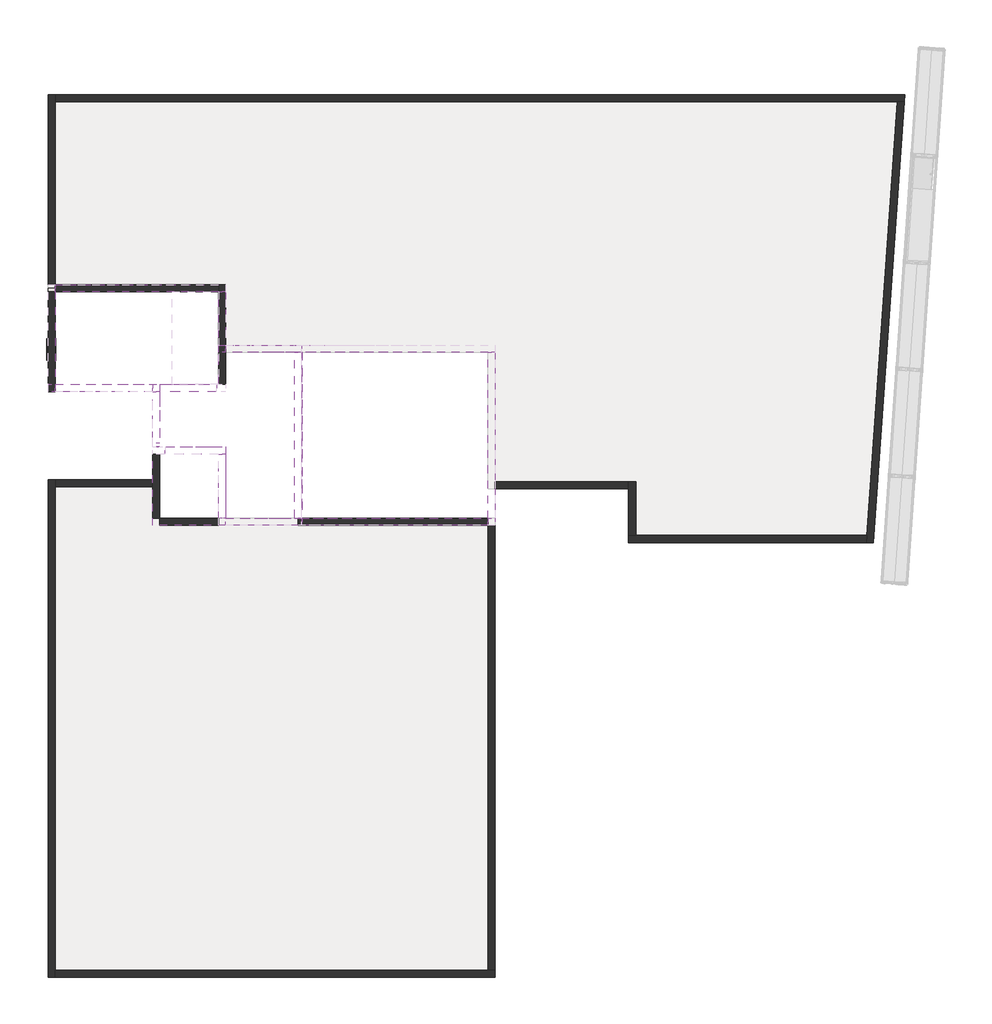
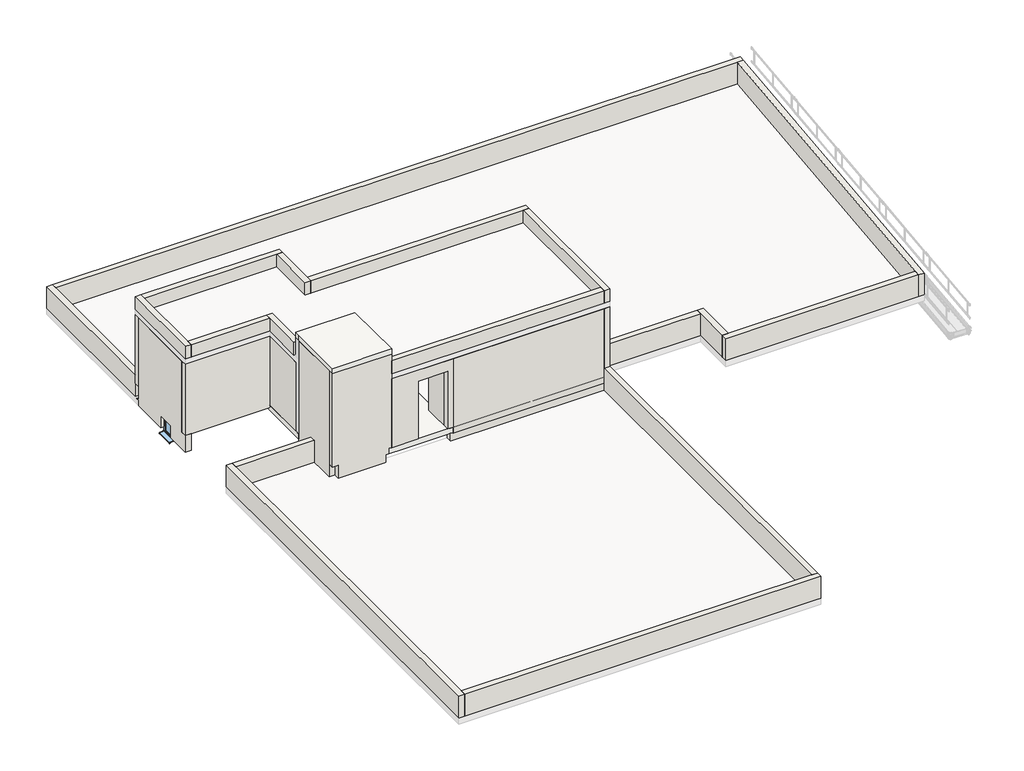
# One storey, part 1 of 2: 33 walls, 2 slabs, 1 window.
"""IFC4 building model written with IfcOpenShell, lengths in millimetres."""

from ifc_helpers import new_model, si_unit, frame, origin, place, context, project, spatial, polyline, outline, extrude, faceted_brep, transform, mapped, element, save
from components import tunnel_1v_voile_60x60_76355a19

model = new_model("IFC4")

# Units and contexts
model_context = context("Model", 3, world=origin())
ifc_project = project(units=[si_unit("LENGTHUNIT", "METRE", prefix="MILLI")], contexts=[model_context])

# Site, building, storey
site = spatial("IfcSite", under=ifc_project)
building = spatial("IfcBuilding", under=site)
storey = spatial("IfcBuildingStorey", under=building, Name="08-Plateau 8", Elevation=14400.0)

# Slabs
placement = place(None, origin())
element("IfcSlab", 1, ObjectType="Plancher Coulé en place 20 cm", at=placement, inside=storey, context=model_context, shape_type="Brep", body=[
    faceted_brep([(-1327.0447796, 7029.8622276, 15650.0), (-1327.0447796, 8929.8622276, 15650.0), (-2817.0447796, 8929.8622276, 15650.0), (-3177.0447796, 8929.8622276, 15650.0), (-3177.0447796, 9129.8622276, 15650.0), (-3177.0447796, 9329.8622276, 15650.0), (-3177.0447796, 10679.8622276, 15650.0), (-3177.0447796, 10879.8622276, 15650.0), (-2977.0447796, 10879.8622276, 15650.0), (-1377.0447796, 10879.8622276, 15650.0), (-1327.0447796, 10879.8622276, 15650.0), (-1327.0447796, 11979.8622276, 15650.0), (1008.9552204, 11979.8622276, 15650.0), (1008.9552204, 11979.5762916, 15650.0), (1008.9552204, 11779.5762916, 15650.0), (1008.9552204, 11417.4340998, 15650.0), (1008.9552204, 11167.4270678, 15650.0), (1008.9552204, 8477.4340998, 15650.0), (1008.9552204, 8227.4340998, 15650.0), (1008.9552204, 7129.8622276, 15650.0), (1008.9552204, 6929.8622276, 15650.0), (912.9552204, 6929.8622276, 15650.0), (812.9552204, 6929.8622276, 15650.0), (-687.0447796, 6929.8622276, 15650.0), (-1327.0447796, 6929.8622276, 15650.0), (-1327.0447796, 7029.8622276, 15850.0), (-1327.0447796, 6929.8622276, 15850.0), (812.9552204, 6929.8622276, 15850.0), (912.9552204, 6929.8622276, 15850.0), (1008.9552204, 6929.8622276, 15850.0), (1008.9552204, 11979.8622276, 15850.0), (-1327.0447796, 11979.8622276, 15850.0), (-1327.0447796, 10879.8622276, 15850.0), (-1377.0447796, 10879.8622276, 15850.0), (-3177.0447796, 10879.8622276, 15850.0), (-3177.0447796, 9129.8622276, 15850.0), (-3177.0447796, 8929.8622276, 15850.0), (-2817.0447796, 8929.8622276, 15850.0), (-1327.0447796, 8929.8622276, 15850.0)], [[[0, 1, 2, 3, 4, 5, 6, 7, 8, 9, 10, 11, 12, 13, 14, 15, 16, 17, 18, 19, 20, 21, 22, 23, 24]], [[25, 26, 27, 28, 29, 30, 31, 32, 33, 34, 35, 36, 37, 38]], [[1, 0, 25, 38]], [[3, 2, 1, 38, 37, 36]], [[7, 6, 5, 4, 3, 36, 35, 34]], [[10, 9, 8, 7, 34, 33, 32]], [[11, 10, 32, 31]], [[12, 11, 31, 30]], [[20, 19, 18, 17, 16, 15, 14, 13, 12, 30, 29]], [[24, 23, 22, 21, 20, 29, 28, 27, 26]], [[0, 24, 26, 25]]]),
])
element("IfcSlab", 2, ObjectType="Plancher Coulé en place 20 cm", at=placement, inside=storey, context=model_context, shape_type="SweptSolid", body=[
    extrude(outline(polyline([(-3177.0447796, 6929.8622276), (-3177.0447796, 8929.8622276), (-3177.0447796, 9129.8622276), (-2817.0447796, 9129.8622276), (-1127.0447796, 9129.8622276), (-1127.0447796, 6929.8622276), (-3177.0447796, 6929.8622276)])), frame((0.0, 0.0, 19260.0), z_axis=(0.0, 0.0, 1.0), x_axis=(1.0, 0.0, 0.0)), (0.0, 0.0, 1.0), 200.0),
])

# Walls
element("IfcWall", 3, ObjectType="Voile Banché 20 cm", at=placement, inside=storey, context=model_context, shape_type="Brep", body=[
    faceted_brep([(-5907.0447796, 13479.8622276, 15370.0), (-1327.0447796, 13479.8622276, 15370.0), (-1327.0447796, 13479.8622276, 18360.0), (-5907.0447796, 13479.8622276, 18360.0), (-6107.0447796, 13479.8622276, 18360.0), (-6107.0447796, 13479.8622276, 15850.0), (-5907.0447796, 13479.8622276, 15850.0), (-5907.0447796, 13679.8622276, 15370.0), (-5907.0447796, 13679.8622276, 15850.0), (-6107.0447796, 13679.8622276, 15850.0), (-6107.0447796, 13679.8622276, 16170.0), (-6107.0447796, 13679.8622276, 18360.0), (-1327.0447796, 13679.8622276, 18360.0), (-1327.0447796, 13679.8622276, 15370.0), (-5907.0447796, 13579.8622276, 15370.0)], [[[0, 1, 2, 3, 4, 5, 6]], [[7, 8, 9, 10, 11, 12, 13]], [[1, 0, 14, 7, 13]], [[4, 3, 2, 12, 11]], [[2, 1, 13, 12]], [[0, 6, 8, 7, 14]], [[4, 11, 10, 9, 5]], [[5, 9, 8, 6]]]),
])
element("IfcWall", 4, ObjectType="Voile Banché 20 cm", at=placement, inside=storey, context=model_context, shape_type="Brep", body=[
    faceted_brep([(-1327.0447796, 13479.8622276, 15150.0), (-1327.0447796, 10879.8622276, 15150.0), (-1327.0447796, 10879.8622276, 18360.0), (-1327.0447796, 13479.8622276, 18360.0), (-1327.0447796, 13679.8622276, 18360.0), (-1327.0447796, 13679.8622276, 15370.0), (-1327.0447796, 13479.8622276, 15370.0), (-1127.0447796, 13479.8622276, 15150.0), (-1127.0447796, 13479.8622276, 15370.0), (-1127.0447796, 13679.8622276, 15370.0), (-1127.0447796, 13679.8622276, 18360.0), (-1127.0447796, 11979.8622276, 18360.0), (-1127.0447796, 11779.8622276, 18360.0), (-1127.0447796, 10879.8622276, 18360.0), (-1127.0447796, 10879.8622276, 15850.0), (-1127.0447796, 10879.8622276, 15650.0), (-1127.0447796, 10879.8622276, 15150.0)], [[[0, 1, 2, 3, 4, 5, 6]], [[7, 8, 9, 10, 11, 12, 13, 14, 15, 16]], [[1, 0, 7, 16]], [[2, 1, 16, 15, 14, 13]], [[4, 3, 2, 13, 12, 11, 10]], [[5, 9, 8, 6]], [[0, 6, 8, 7]], [[5, 4, 10, 9]]]),
])
element("IfcWall", 5, ObjectType="Voile Banché 20 cm", at=placement, inside=storey, context=model_context, shape_type="Brep", body=[
    faceted_brep([(812.9552204, 7129.8622276, 15850.0), (812.9552204, 7129.8622276, 17960.0), (812.9552204, 7129.8622276, 18360.0), (812.9552204, 11779.8622276, 18360.0), (812.9552204, 11779.8622276, 17960.0), (812.9552204, 11779.8622276, 15850.0), (812.9552204, 9559.5762916, 15850.0), (812.9552204, 9559.5762916, 17960.0), (812.9552204, 8059.5762916, 17960.0), (812.9552204, 8059.5762916, 15850.0), (1012.9552204, 7129.8622276, 18360.0), (1012.9552204, 7129.8622276, 15850.0), (1012.9552204, 8059.5762916, 15850.0), (1012.9552204, 8059.5762916, 17960.0), (1012.9552204, 9559.5762916, 17960.0), (1012.9552204, 9559.5762916, 15850.0), (1012.9552204, 11779.8622276, 15850.0), (1012.9552204, 11779.8622276, 18360.0), (1012.9552204, 7130.1481637, 18360.0)], [[[0, 1, 2, 3, 4, 5, 6, 7, 8, 9]], [[10, 11, 12, 13, 14, 15, 16, 17, 18]], [[11, 0, 9, 12]], [[5, 16, 15, 6]], [[3, 2, 10, 18, 17]], [[7, 14, 13, 8]], [[14, 7, 6, 15]], [[8, 13, 12, 9]], [[2, 1, 0, 11, 10]], [[5, 4, 3, 17, 16]]]),
])
element("IfcWall", 6, ObjectType="Voile Banché 20 cm", at=placement, inside=storey, context=model_context, shape_type="Brep", body=[
    faceted_brep([(6432.9552204, 11779.8622276, 15850.0), (6432.9552204, 11779.8622276, 18360.0), (6232.9552204, 11779.8622276, 18360.0), (1012.9552204, 11779.8622276, 18360.0), (812.9552204, 11779.8622276, 18360.0), (-1127.0447796, 11779.8622276, 18360.0), (-1127.0447796, 11779.8622276, 15850.0), (-207.0447796, 11779.8622276, 15850.0), (-207.0447796, 11779.8622276, 17960.0), (812.9552204, 11779.8622276, 17960.0), (812.9552204, 11779.8622276, 15850.0), (1012.9552204, 11779.8622276, 15850.0), (6232.9552204, 11779.8622276, 15850.0), (6432.9552204, 11979.8622276, 18360.0), (6432.9552204, 11979.8622276, 15850.0), (812.9552204, 11979.8622276, 15850.0), (812.9552204, 11979.8622276, 17960.0), (-207.0447796, 11979.8622276, 17960.0), (-207.0447796, 11979.8622276, 15850.0), (-1127.0447796, 11979.8622276, 15850.0), (-1127.0447796, 11979.8622276, 18360.0)], [[[0, 1, 2, 3, 4, 5, 6, 7, 8, 9, 10, 11, 12]], [[13, 14, 15, 16, 17, 18, 19, 20]], [[14, 0, 12, 11, 10, 15]], [[6, 19, 18, 7]], [[5, 4, 3, 2, 1, 13, 20]], [[1, 0, 14, 13]], [[6, 5, 20, 19]], [[8, 17, 16, 9]], [[17, 8, 7, 18]], [[9, 16, 15, 10]]]),
])
element("IfcWall", 7, ObjectType="Voile Banché 20 cm", at=placement, inside=storey, context=model_context, shape_type="Brep", body=[
    faceted_brep([(6232.9552204, 11779.8622276, 15850.0), (6232.9552204, 7130.1481637, 15850.0), (6232.9552204, 6930.1481637, 15850.0), (6232.9552204, 6930.1481637, 16170.0), (6232.9552204, 6930.1481637, 18360.0), (6232.9552204, 7130.1481637, 18360.0), (6232.9552204, 11779.8622276, 18360.0), (6432.9552204, 11779.8622276, 15850.0), (6432.9552204, 11779.8622276, 18360.0), (6432.9552204, 6930.1481637, 18360.0), (6432.9552204, 6930.1481637, 16170.0), (6432.9552204, 6930.1481637, 15850.0), (6432.9552204, 7130.1481637, 15850.0)], [[[0, 1, 2, 3, 4, 5, 6]], [[7, 8, 9, 10, 11, 12]], [[2, 1, 0, 7, 12, 11]], [[6, 5, 4, 9, 8]], [[0, 6, 8, 7]], [[2, 11, 10, 9, 4, 3]]]),
])
element("IfcWall", 8, ObjectType="Voile Banché 20 cm", at=placement, inside=storey, context=model_context, shape_type="Brep", body=[
    faceted_brep([(-6107.0447796, 10679.8622276, 18360.0), (-6107.0447796, 10679.8622276, 15760.0), (-5907.0447796, 10679.8622276, 15760.0), (-1377.0447796, 10679.8622276, 15760.0), (-1377.0447796, 10679.8622276, 15850.0), (-1377.0447796, 10679.8622276, 15860.0), (-2397.0447796, 10679.8622276, 15860.0), (-2397.0447796, 10679.8622276, 17960.0), (-1377.0447796, 10679.8622276, 17960.0), (-1377.0447796, 10679.8622276, 18360.0), (-2977.0447796, 10679.8622276, 18360.0), (-3177.0447796, 10679.8622276, 18360.0), (-1377.0447796, 10879.8622276, 15760.0), (-5907.0447796, 10879.8622276, 15760.0), (-6107.0447796, 10879.8622276, 15760.0), (-6107.0447796, 10879.8622276, 15850.0), (-6107.0447796, 10879.8622276, 18360.0), (-5907.0447796, 10879.8622276, 18360.0), (-1377.0447796, 10879.8622276, 18360.0), (-1377.0447796, 10879.8622276, 17960.0), (-2397.0447796, 10879.8622276, 17960.0), (-2397.0447796, 10879.8622276, 15860.0), (-1377.0447796, 10879.8622276, 15860.0), (-1377.0447796, 10879.8622276, 15850.0)], [[[0, 1, 2, 3, 4, 5, 6, 7, 8, 9, 10, 11]], [[12, 13, 14, 15, 16, 17, 18, 19, 20, 21, 22, 23]], [[3, 2, 1, 14, 13, 12]], [[3, 12, 23, 22, 5, 4]], [[18, 9, 8, 19]], [[0, 11, 10, 9, 18, 17, 16]], [[0, 16, 15, 14, 1]], [[7, 20, 19, 8]], [[21, 6, 5, 22]], [[20, 7, 6, 21]]]),
])
element("IfcWall", 9, ObjectType="Voile Banché 20 cm", at=placement, inside=storey, context=model_context, shape_type="Brep", body=[
    faceted_brep([(-6107.0447796, 10879.8622276, 18360.0), (-6107.0447796, 13479.8622276, 18360.0), (-6107.0447796, 13479.8622276, 15850.0), (-6107.0447796, 13479.8622276, 15370.0), (-6107.0447796, 13579.8622276, 15370.0), (-6107.0447796, 13579.8622276, 15350.0), (-6107.0447796, 13479.8622276, 15350.0), (-6107.0447796, 13479.8622276, 15150.0), (-6107.0447796, 12154.8622276, 15150.0), (-6107.0447796, 12154.8622276, 15580.0), (-6107.0447796, 11554.8622276, 15580.0), (-6107.0447796, 11554.8622276, 15150.0), (-6107.0447796, 10879.8622276, 15150.0), (-6107.0447796, 10679.8622276, 15150.0), (-6107.0447796, 10679.8622276, 15760.0), (-6107.0447796, 10879.8622276, 15760.0), (-5907.0447796, 13479.8622276, 18360.0), (-5907.0447796, 10879.8622276, 18360.0), (-5907.0447796, 10879.8622276, 15850.0), (-5907.0447796, 10879.8622276, 15760.0), (-5907.0447796, 10679.8622276, 15760.0), (-5907.0447796, 10679.8622276, 15150.0), (-5907.0447796, 10879.8622276, 15150.0), (-5907.0447796, 11554.8622276, 15150.0), (-5907.0447796, 11554.8622276, 15580.0), (-5907.0447796, 12154.8622276, 15580.0), (-5907.0447796, 12154.8622276, 15150.0), (-5907.0447796, 13479.8622276, 15150.0), (-5907.0447796, 13479.8622276, 15350.0), (-5907.0447796, 13579.8622276, 15350.0), (-5907.0447796, 13579.8622276, 15370.0), (-5907.0447796, 13479.8622276, 15370.0), (-5907.0447796, 13479.8622276, 15850.0)], [[[0, 1, 2, 3, 4, 5, 6, 7, 8, 9, 10, 11, 12, 13, 14, 15]], [[16, 17, 18, 19, 20, 21, 22, 23, 24, 25, 26, 27, 28, 29, 30, 31, 32]], [[7, 27, 26, 8]], [[21, 13, 12, 11, 23, 22]], [[1, 0, 17, 16]], [[7, 6, 28, 27]], [[13, 21, 20, 14]], [[17, 0, 15, 19, 18]], [[5, 4, 30, 29]], [[25, 9, 8, 26]], [[9, 25, 24, 10]], [[10, 24, 23, 11]], [[15, 14, 20, 19]], [[5, 29, 28, 6]], [[31, 30, 4, 3]], [[1, 16, 32, 31, 3, 2]]]),
])
element("IfcWall", 10, ObjectType="Voile Banché 20 cm", at=placement, inside=storey, context=model_context, shape_type="SweptSolid", body=[
    extrude(outline(polyline([(-3177.0447796, 9129.8622276), (-3177.0447796, 10679.8622276), (-2977.0447796, 10679.8622276), (-2977.0447796, 9129.8622276), (-3177.0447796, 9129.8622276)])), frame((0.0, 0.0, 15850.0), z_axis=(0.0, 0.0, 1.0), x_axis=(1.0, 0.0, 0.0)), (0.0, 0.0, 1.0), 2510.0),
])
element("IfcWall", 11, ObjectType="Voile Banché 20 cm", at=placement, inside=storey, context=model_context, shape_type="Brep", body=[
    faceted_brep([(-3177.0447796, 8929.8622276, 15370.0), (-3177.0447796, 8209.8622276, 15370.0), (-3177.0447796, 8009.8622276, 15370.0), (-3177.0447796, 7129.8622276, 15370.0), (-3177.0447796, 7129.8622276, 15850.0), (-3177.0447796, 7129.8622276, 19260.0), (-3177.0447796, 8929.8622276, 19260.0), (-3177.0447796, 8929.8622276, 18560.0), (-3177.0447796, 8929.8622276, 18360.0), (-3177.0447796, 8929.8622276, 15850.0), (-3177.0447796, 8929.8622276, 15650.0), (-2977.0447796, 8929.8622276, 15370.0), (-2977.0447796, 8929.8622276, 19260.0), (-2977.0447796, 7129.8622276, 19260.0), (-2977.0447796, 7129.8622276, 15370.0)], [[[0, 1, 2, 3, 4, 5, 6, 7, 8, 9, 10]], [[11, 12, 13, 14]], [[3, 2, 1, 0, 11, 14]], [[0, 10, 9, 8, 7, 6, 12, 11]], [[6, 5, 13, 12]], [[3, 14, 13, 5, 4]]]),
])
element("IfcWall", 12, ObjectType="Voile Banché 20 cm", at=placement, inside=storey, context=model_context, shape_type="Brep", body=[
    faceted_brep([(-1327.0447796, 7129.8622276, 15370.0), (-2977.0447796, 7129.8622276, 15370.0), (-2977.0447796, 7129.8622276, 15850.0), (-3177.0447796, 7129.8622276, 15850.0), (-3177.0447796, 7129.8622276, 19260.0), (-2977.0447796, 7129.8622276, 19260.0), (-1327.0447796, 7129.8622276, 19260.0), (-1127.0447796, 7129.8622276, 19260.0), (-1127.0447796, 7129.8622276, 19020.0), (-1127.0447796, 7129.8622276, 18560.0), (-1127.0447796, 7129.8622276, 18360.0), (-1127.0447796, 7129.8622276, 15850.0), (-1227.0447796, 7129.8622276, 15850.0), (-1227.0447796, 7129.8622276, 15650.0), (-1327.0447796, 7129.8622276, 15650.0), (-1327.0447796, 6929.8622276, 15370.0), (-1327.0447796, 6929.8622276, 15650.0), (-1227.0447796, 6929.8622276, 15650.0), (-1227.0447796, 6929.8622276, 15850.0), (-1127.0447796, 6929.8622276, 15850.0), (-1127.0447796, 6929.8622276, 18360.0), (-1127.0447796, 6929.8622276, 18560.0), (-1127.0447796, 6929.8622276, 19020.0), (-1127.0447796, 6929.8622276, 19260.0), (-3177.0447796, 6929.8622276, 19260.0), (-3177.0447796, 6929.8622276, 15850.0), (-2977.0447796, 6929.8622276, 15850.0), (-2977.0447796, 6929.8622276, 15370.0)], [[[0, 1, 2, 3, 4, 5, 6, 7, 8, 9, 10, 11, 12, 13, 14]], [[15, 16, 17, 18, 19, 20, 21, 22, 23, 24, 25, 26, 27]], [[1, 0, 15, 27]], [[25, 3, 2, 26]], [[2, 1, 27, 26]], [[4, 3, 25, 24]], [[13, 17, 16, 14]], [[13, 12, 18, 17]], [[11, 19, 18, 12]], [[0, 14, 16, 15]], [[7, 6, 5, 4, 24, 23]], [[7, 23, 22, 21, 20, 19, 11, 10, 9, 8]]]),
])
element("IfcWall", 13, ObjectType="Voile Banché 20 cm", at=placement, inside=storey, context=model_context, shape_type="Brep", body=[
    faceted_brep([(-1127.0447796, 9129.8622276, 15850.0), (-1327.0447796, 9129.8622276, 15850.0), (-2817.0447796, 9129.8622276, 15850.0), (-2817.0447796, 9129.8622276, 15860.0), (-1797.0447796, 9129.8622276, 15860.0), (-1797.0447796, 9129.8622276, 17960.0), (-2817.0447796, 9129.8622276, 17960.0), (-2817.0447796, 9129.8622276, 19260.0), (-1127.0447796, 9129.8622276, 19260.0), (-1127.0447796, 9129.8622276, 15860.0), (-2817.0447796, 8929.8622276, 15850.0), (-1327.0447796, 8929.8622276, 15850.0), (-1127.0447796, 8929.8622276, 15850.0), (-1127.0447796, 8929.8622276, 19260.0), (-1327.0447796, 8929.8622276, 19260.0), (-2817.0447796, 8929.8622276, 19260.0), (-2817.0447796, 8929.8622276, 17960.0), (-1797.0447796, 8929.8622276, 17960.0), (-1797.0447796, 8929.8622276, 15860.0), (-2817.0447796, 8929.8622276, 15860.0)], [[[0, 1, 2, 3, 4, 5, 6, 7, 8, 9]], [[10, 11, 12, 13, 14, 15, 16, 17, 18, 19]], [[2, 1, 0, 12, 11, 10]], [[2, 10, 19, 3]], [[15, 7, 6, 16]], [[0, 9, 8, 13, 12]], [[5, 17, 16, 6]], [[18, 4, 3, 19]], [[17, 5, 4, 18]], [[8, 7, 15, 14, 13]]]),
])
element("IfcWall", 14, ObjectType="Voile Banché 20 cm", at=placement, inside=storey, context=model_context, shape_type="Brep", body=[
    faceted_brep([(-1327.0447796, 8929.8622276, 15850.0), (-1327.0447796, 7129.8622276, 15850.0), (-1327.0447796, 7129.8622276, 19260.0), (-1327.0447796, 8929.8622276, 19260.0), (-1127.0447796, 8929.8622276, 15850.0), (-1127.0447796, 8929.8622276, 19260.0), (-1127.0447796, 7129.8622276, 19260.0), (-1127.0447796, 7129.8622276, 15850.0), (-1227.0447796, 7129.8622276, 15850.0)], [[[0, 1, 2, 3]], [[4, 5, 6, 7]], [[1, 0, 4, 7, 8]], [[0, 3, 5, 4]], [[3, 2, 6, 5]], [[1, 8, 7, 6, 2]]]),
])
element("IfcWall", 15, ObjectType="Voile Banché 20 cm", at=placement, inside=storey, context=model_context, shape_type="Brep", body=[
    faceted_brep([(-1127.0447796, 7129.8622276, 15850.0), (-1127.0447796, 7129.8622276, 18360.0), (812.9552204, 7129.8622276, 18360.0), (1012.9552204, 7129.8622276, 18360.0), (1012.9552204, 7129.8622276, 15850.0), (812.9552204, 7129.8622276, 15850.0), (812.9552204, 7129.8622276, 17960.0), (-207.0447796, 7129.8622276, 17960.0), (-207.0447796, 7129.8622276, 15850.0), (-1127.0447796, 6929.8622276, 18360.0), (-1127.0447796, 6929.8622276, 15850.0), (-207.0447796, 6929.8622276, 15850.0), (-207.0447796, 6929.8622276, 17960.0), (812.9552204, 6929.8622276, 17960.0), (812.9552204, 6929.8622276, 15850.0), (1012.9552204, 6929.8622276, 15850.0), (1012.9552204, 6929.8622276, 18360.0), (1012.9552204, 6930.1481637, 18360.0)], [[[0, 1, 2, 3, 4, 5, 6, 7, 8]], [[9, 10, 11, 12, 13, 14, 15, 16]], [[10, 0, 8, 11]], [[4, 15, 14, 5]], [[3, 2, 1, 9, 16, 17]], [[1, 0, 10, 9]], [[6, 13, 12, 7]], [[13, 6, 5, 14]], [[7, 12, 11, 8]], [[4, 3, 17, 16, 15]]]),
])
element("IfcWall", 16, ObjectType="Acrotère BA 20 cm", at=placement, inside=storey, context=model_context, shape_type="Brep", body=[
    faceted_brep([(-6107.0447796, 8209.8622276, 15370.0), (-6107.0447796, -5740.1377724, 15370.0), (-6107.0447796, -5740.1377724, 16170.0), (-6107.0447796, 8209.8622276, 16170.0), (-5907.0447796, 8209.8622276, 15370.0), (-5907.0447796, 8209.8622276, 16170.0), (-5907.0447796, 8009.8622276, 16170.0), (-5907.0447796, -5540.1377724, 16170.0), (-5907.0447796, -5740.1377724, 16170.0), (-5907.0447796, -5740.1377724, 15370.0), (-5907.0447796, -5540.1377724, 15370.0), (-5907.0447796, 8009.8622276, 15370.0)], [[[0, 1, 2, 3]], [[4, 5, 6, 7, 8, 9, 10, 11]], [[1, 0, 4, 11, 10, 9]], [[3, 2, 8, 7, 6, 5]], [[2, 1, 9, 8]], [[0, 3, 5, 4]]]),
])
element("IfcWall", 17, ObjectType="Acrotère BA 20 cm", at=placement, inside=storey, context=model_context, shape_type="Brep", body=[
    faceted_brep([(-5907.0447796, -5740.1377724, 15370.0), (6432.9552204, -5740.1377724, 15370.0), (6432.9552204, -5740.1377724, 16170.0), (-5907.0447796, -5740.1377724, 16170.0), (-5907.0447796, -5540.1377724, 15370.0), (-5907.0447796, -5540.1377724, 16170.0), (6232.9552204, -5540.1377724, 16170.0), (6432.9552204, -5540.1377724, 16170.0), (6432.9552204, -5540.1377724, 15370.0), (6232.9552204, -5540.1377724, 15370.0)], [[[0, 1, 2, 3]], [[4, 5, 6, 7, 8, 9]], [[1, 0, 4, 9, 8]], [[3, 2, 7, 6, 5]], [[0, 3, 5, 4]], [[2, 1, 8, 7]]]),
])
element("IfcWall", 18, ObjectType="Acrotère BA 20 cm", at=placement, inside=storey, context=model_context, shape_type="Brep", body=[
    faceted_brep([(6432.9552204, -5540.1377724, 15370.0), (6432.9552204, 6779.8622276, 15370.0), (6432.9552204, 6929.8622276, 15370.0), (6432.9552204, 6929.8622276, 15620.0), (6432.9552204, 6929.8622276, 15650.0), (6432.9552204, 6930.1481637, 15650.0), (6432.9552204, 6930.1481637, 15850.0), (6432.9552204, 6930.1481637, 16170.0), (6432.9552204, -5540.1377724, 16170.0), (6232.9552204, -5540.1377724, 15370.0), (6232.9552204, -5540.1377724, 16170.0), (6232.9552204, 6930.1481637, 16170.0), (6232.9552204, 6930.1481637, 15850.0), (6232.9552204, 6930.1481637, 15650.0), (6232.9552204, 6929.8622276, 15650.0), (6232.9552204, 6929.8622276, 15620.0), (6232.9552204, 6929.8622276, 15370.0), (6232.9552204, 6779.8622276, 15370.0)], [[[0, 1, 2, 3, 4, 5, 6, 7, 8]], [[9, 10, 11, 12, 13, 14, 15, 16, 17]], [[2, 1, 0, 9, 17, 16]], [[8, 7, 11, 10]], [[0, 8, 10, 9]], [[13, 5, 4, 14]], [[2, 16, 15, 14, 4, 3]], [[7, 6, 5, 13, 12, 11]]]),
])
element("IfcWall", 19, ObjectType="Acrotère BA 20 cm", at=placement, inside=storey, context=model_context, shape_type="SweptSolid", body=[
    extrude(outline(polyline([(-5907.0447796, 8209.8622276), (-3177.0447796, 8209.8622276), (-3177.0447796, 8009.8622276), (-5907.0447796, 8009.8622276), (-5907.0447796, 8209.8622276)])), frame((0.0, 0.0, 15370.0), z_axis=(0.0, 0.0, 1.0), x_axis=(1.0, 0.0, 0.0)), (0.0, 0.0, 1.0), 800.0),
])
element("IfcWall", 20, ObjectType="Acrotère BA 20 cm", at=placement, inside=storey, context=model_context, shape_type="Brep", body=[
    faceted_brep([(-5907.0447796, 13679.8622276, 15370.0), (-5907.0447796, 18799.8622276, 15370.0), (-5907.0447796, 18999.8622276, 15370.0), (-5907.0447796, 18999.8622276, 16170.0), (-5907.0447796, 18799.8622276, 16170.0), (-5907.0447796, 13679.8622276, 16170.0), (-5907.0447796, 13679.8622276, 15850.0), (-6107.0447796, 13679.8622276, 15370.0), (-6107.0447796, 13679.8622276, 15850.0), (-6107.0447796, 13679.8622276, 16170.0), (-6107.0447796, 18999.8622276, 16170.0), (-6107.0447796, 18999.8622276, 15370.0)], [[[0, 1, 2, 3, 4, 5, 6]], [[7, 8, 9, 10, 11]], [[2, 1, 0, 7, 11]], [[5, 4, 3, 10, 9]], [[0, 6, 5, 9, 8, 7]], [[3, 2, 11, 10]]]),
])
element("IfcWall", 21, ObjectType="Acrotère BA 20 cm", at=placement, inside=storey, context=model_context, shape_type="Brep", body=[
    faceted_brep([(-5907.0447796, 18799.8622276, 15370.0), (17705.3277835, 18799.8622276, 15370.0), (17905.8161631, 18799.8622276, 15370.0), (17905.8161631, 18799.8622276, 16170.0), (17705.3277835, 18799.8622276, 16170.0), (-5907.0447796, 18799.8622276, 16170.0), (-5907.0447796, 18999.8622276, 15370.0), (-5907.0447796, 18999.8622276, 16170.0), (17919.8015255, 18999.8622276, 16170.0), (17919.8015255, 18999.8622276, 15370.0)], [[[0, 1, 2, 3, 4, 5]], [[6, 7, 8, 9]], [[2, 1, 0, 6, 9]], [[5, 4, 3, 8, 7]], [[0, 5, 7, 6]], [[3, 2, 9, 8]]]),
])
element("IfcWall", 22, ObjectType="Acrotère BA 20 cm", at=placement, inside=storey, context=model_context, shape_type="Brep", body=[
    faceted_brep([(17705.3277835, 18799.8622276, 15370.0), (16855.7620686, 6650.5064754, 15370.0), (16841.7767062, 6450.5064754, 15370.0), (16841.7767062, 6450.5064754, 16170.0), (16855.7620686, 6650.5064754, 16170.0), (17705.3277835, 18799.8622276, 16170.0), (17905.8161631, 18799.8622276, 15370.0), (17905.8161631, 18799.8622276, 16170.0), (17042.2650858, 6450.5064754, 16170.0), (17042.2650858, 6450.5064754, 15370.0)], [[[0, 1, 2, 3, 4, 5]], [[6, 7, 8, 9]], [[2, 1, 0, 6, 9]], [[5, 4, 3, 8, 7]], [[0, 5, 7, 6]], [[3, 2, 9, 8]]]),
])
element("IfcWall", 23, ObjectType="Acrotère BA 20 cm", at=placement, inside=storey, context=model_context, shape_type="Brep", body=[
    faceted_brep([(16855.7620686, 6650.5064754, 15370.0), (10373.5257924, 6650.5064754, 15370.0), (10173.5257924, 6650.5064754, 15370.0), (10173.5257924, 6650.5064754, 16170.0), (10373.5257924, 6650.5064754, 16170.0), (16855.7620686, 6650.5064754, 16170.0), (16841.7767062, 6450.5064754, 15370.0), (16841.7767062, 6450.5064754, 16170.0), (10173.5257924, 6450.5064754, 16170.0), (10173.5257924, 6450.5064754, 15370.0)], [[[0, 1, 2, 3, 4, 5]], [[6, 7, 8, 9]], [[2, 1, 0, 6, 9]], [[5, 4, 3, 8, 7]], [[0, 5, 7, 6]], [[3, 2, 9, 8]]]),
])
element("IfcWall", 24, ObjectType="Acrotère BA 20 cm", at=placement, inside=storey, context=model_context, shape_type="Brep", body=[
    faceted_brep([(10373.5257924, 6650.5064754, 15370.0), (10373.5257924, 8159.8622276, 15370.0), (10373.5257924, 8159.8622276, 16170.0), (10373.5257924, 6650.5064754, 16170.0), (10173.5257924, 6650.5064754, 15370.0), (10173.5257924, 6650.5064754, 16170.0), (10173.5257924, 7959.8622276, 16170.0), (10173.5257924, 8159.8622276, 16170.0), (10173.5257924, 8159.8622276, 15370.0), (10173.5257924, 7959.8622276, 15370.0)], [[[0, 1, 2, 3]], [[4, 5, 6, 7, 8, 9]], [[1, 0, 4, 9, 8]], [[3, 2, 7, 6, 5]], [[0, 3, 5, 4]], [[2, 1, 8, 7]]]),
])
element("IfcWall", 25, ObjectType="Acrotère BA 20 cm", at=placement, inside=storey, context=model_context, shape_type="SweptSolid", body=[
    extrude(outline(polyline([(6432.9552204, 8159.8622276), (10173.5257924, 8159.8622276), (10173.5257924, 7959.8622276), (6432.9552204, 7959.8622276), (6432.9552204, 8159.8622276)])), frame((0.0, 0.0, 15370.0), z_axis=(0.0, 0.0, 1.0), x_axis=(1.0, 0.0, 0.0)), (0.0, 0.0, 1.0), 800.0),
])
element("IfcWall", 26, ObjectType="Acrotère BA 20 cm", at=placement, inside=storey, context=model_context, shape_type="Brep", body=[
    faceted_brep([(-5907.0447796, 10679.8622276, 18560.0), (-5907.0447796, 10879.8622276, 18560.0), (-5907.0447796, 13479.8622276, 18560.0), (-5907.0447796, 13679.8622276, 18560.0), (-5907.0447796, 13679.8622276, 19020.0), (-5907.0447796, 13479.8622276, 19020.0), (-5907.0447796, 10879.8622276, 19020.0), (-5907.0447796, 10679.8622276, 19020.0), (-6107.0447796, 10679.8622276, 18560.0), (-6107.0447796, 10679.8622276, 19020.0), (-6107.0447796, 13679.8622276, 19020.0), (-6107.0447796, 13679.8622276, 18560.0)], [[[0, 1, 2, 3, 4, 5, 6, 7]], [[8, 9, 10, 11]], [[3, 2, 1, 0, 8, 11]], [[7, 6, 5, 4, 10, 9]], [[4, 3, 11, 10]], [[0, 7, 9, 8]]]),
])
element("IfcWall", 27, ObjectType="Acrotère BA 20 cm", at=placement, inside=storey, context=model_context, shape_type="Brep", body=[
    faceted_brep([(-5907.0447796, 13479.8622276, 18560.0), (-1327.0447796, 13479.8622276, 18560.0), (-1127.0447796, 13479.8622276, 18560.0), (-1127.0447796, 13479.8622276, 19020.0), (-1327.0447796, 13479.8622276, 19020.0), (-5907.0447796, 13479.8622276, 19020.0), (-5907.0447796, 13679.8622276, 18560.0), (-5907.0447796, 13679.8622276, 19020.0), (-1127.0447796, 13679.8622276, 19020.0), (-1127.0447796, 13679.8622276, 18560.0)], [[[0, 1, 2, 3, 4, 5]], [[6, 7, 8, 9]], [[2, 1, 0, 6, 9]], [[5, 4, 3, 8, 7]], [[0, 5, 7, 6]], [[3, 2, 9, 8]]]),
])
element("IfcWall", 28, ObjectType="Acrotère BA 20 cm", at=placement, inside=storey, context=model_context, shape_type="Brep", body=[
    faceted_brep([(-1327.0447796, 13479.8622276, 18560.0), (-1327.0447796, 11779.8622276, 18560.0), (-1327.0447796, 11779.8622276, 19020.0), (-1327.0447796, 13479.8622276, 19020.0), (-1127.0447796, 13479.8622276, 18560.0), (-1127.0447796, 13479.8622276, 19020.0), (-1127.0447796, 11979.8622276, 19020.0), (-1127.0447796, 11779.8622276, 19020.0), (-1127.0447796, 11779.8622276, 18560.0), (-1127.0447796, 11979.8622276, 18560.0)], [[[0, 1, 2, 3]], [[4, 5, 6, 7, 8, 9]], [[1, 0, 4, 9, 8]], [[3, 2, 7, 6, 5]], [[0, 3, 5, 4]], [[2, 1, 8, 7]]]),
])
element("IfcWall", 29, ObjectType="Acrotère BA 20 cm", at=placement, inside=storey, context=model_context, shape_type="Brep", body=[
    faceted_brep([(-1127.0447796, 11779.8622276, 18560.0), (6232.9552204, 11779.8622276, 18560.0), (6432.9552204, 11779.8622276, 18560.0), (6432.9552204, 11779.8622276, 19020.0), (6232.9552204, 11779.8622276, 19020.0), (-1127.0447796, 11779.8622276, 19020.0), (-1127.0447796, 11979.8622276, 18560.0), (-1127.0447796, 11979.8622276, 19020.0), (6432.9552204, 11979.8622276, 19020.0), (6432.9552204, 11979.8622276, 18560.0)], [[[0, 1, 2, 3, 4, 5]], [[6, 7, 8, 9]], [[2, 1, 0, 6, 9]], [[5, 4, 3, 8, 7]], [[0, 5, 7, 6]], [[3, 2, 9, 8]]]),
])
element("IfcWall", 30, ObjectType="Acrotère BA 20 cm", at=placement, inside=storey, context=model_context, shape_type="Brep", body=[
    faceted_brep([(6232.9552204, 11779.8622276, 18560.0), (6232.9552204, 7129.8622276, 18560.0), (6232.9552204, 6929.8622276, 18560.0), (6232.9552204, 6929.8622276, 19020.0), (6232.9552204, 7129.8622276, 19020.0), (6232.9552204, 11779.8622276, 19020.0), (6432.9552204, 11779.8622276, 18560.0), (6432.9552204, 11779.8622276, 19020.0), (6432.9552204, 6929.8622276, 19020.0), (6432.9552204, 6929.8622276, 18560.0)], [[[0, 1, 2, 3, 4, 5]], [[6, 7, 8, 9]], [[2, 1, 0, 6, 9]], [[5, 4, 3, 8, 7]], [[0, 5, 7, 6]], [[3, 2, 9, 8]]]),
])
element("IfcWall", 31, ObjectType="Acrotère BA 20 cm", at=placement, inside=storey, context=model_context, shape_type="SweptSolid", body=[
    extrude(outline(polyline([(-1127.0447796, 7129.8622276), (6232.9552204, 7129.8622276), (6232.9552204, 6929.8622276), (-1127.0447796, 6929.8622276), (-1127.0447796, 7129.8622276)])), frame((0.0, 0.0, 18560.0), z_axis=(0.0, 0.0, 1.0), x_axis=(1.0, 0.0, 0.0)), (0.0, 0.0, 1.0), 460.0),
])
element("IfcWall", 32, ObjectType="Acrotère BA 20 cm", at=placement, inside=storey, context=model_context, shape_type="Brep", body=[
    faceted_brep([(-2977.0447796, 9229.8622276, 18560.0), (-2977.0447796, 10879.8622276, 18560.0), (-2977.0447796, 10879.8622276, 19020.0), (-2977.0447796, 9229.8622276, 19020.0), (-3177.0447796, 9229.8622276, 18560.0), (-3177.0447796, 9229.8622276, 19020.0), (-3177.0447796, 10679.8622276, 19020.0), (-3177.0447796, 10879.8622276, 19020.0), (-3177.0447796, 10879.8622276, 18560.0), (-3177.0447796, 10679.8622276, 18560.0)], [[[0, 1, 2, 3]], [[4, 5, 6, 7, 8, 9]], [[1, 0, 4, 9, 8]], [[3, 2, 7, 6, 5]], [[0, 3, 5, 4]], [[2, 1, 8, 7]]]),
])
element("IfcWall", 33, ObjectType="Acrotère BA 20 cm", at=placement, inside=storey, context=model_context, shape_type="SweptSolid", body=[
    extrude(outline(polyline([(-5907.0447796, 10879.8622276), (-3177.0447796, 10879.8622276), (-3177.0447796, 10679.8622276), (-5907.0447796, 10679.8622276), (-5907.0447796, 10879.8622276)])), frame((0.0, 0.0, 18560.0), z_axis=(0.0, 0.0, 1.0), x_axis=(1.0, 0.0, 0.0)), (0.0, 0.0, 1.0), 460.0),
])
element("IfcWall", 34, ObjectType="Poutre voile 20cm", at=placement, inside=storey, context=model_context, shape_type="Brep", body=[
    faceted_brep([(1008.9552204, 6929.8622276, 15650.0), (912.9552204, 6929.8622276, 15650.0), (912.9552204, 6929.8622276, 15370.0), (6232.9552204, 6929.8622276, 15370.0), (6232.9552204, 6929.8622276, 15620.0), (1008.9552204, 6929.8622276, 15620.0), (912.9552204, 7129.8622276, 15650.0), (1008.9552204, 7129.8622276, 15650.0), (1008.9552204, 7129.8622276, 15620.0), (1012.9552204, 7129.8622276, 15620.0), (6232.9552204, 7129.8622276, 15620.0), (6232.9552204, 7129.8622276, 15370.0), (912.9552204, 7129.8622276, 15370.0)], [[[0, 1, 2, 3, 4, 5]], [[6, 7, 8, 9, 10, 11, 12]], [[1, 6, 12, 2]], [[3, 2, 12, 11]], [[1, 0, 7, 6]], [[5, 4, 10, 9, 8]], [[10, 4, 3, 11]], [[0, 5, 8, 7]]]),
])
element("IfcWall", 35, ObjectType="Poutre voile 20cm", at=placement, inside=storey, context=model_context, shape_type="Brep", body=[
    faceted_brep([(1012.9552204, 6930.1481637, 15630.0), (6432.9552204, 6930.1481637, 15630.0), (6432.9552204, 6930.1481637, 15650.0), (6432.9552204, 6930.1481637, 15850.0), (6232.9552204, 6930.1481637, 15850.0), (6232.9552204, 6930.1481637, 18360.0), (1012.9552204, 6930.1481637, 18360.0), (1012.9552204, 7130.1481637, 15630.0), (1012.9552204, 7130.1481637, 18360.0), (6232.9552204, 7130.1481637, 18360.0), (6232.9552204, 7130.1481637, 15850.0), (6432.9552204, 7130.1481637, 15850.0), (6432.9552204, 7130.1481637, 15630.0), (1012.9552204, 7129.8622276, 18360.0)], [[[0, 1, 2, 3, 4, 5, 6]], [[7, 8, 9, 10, 11, 12]], [[1, 0, 7, 12]], [[6, 5, 9, 8, 13]], [[0, 6, 13, 8, 7]], [[10, 4, 3, 11]], [[1, 12, 11, 3, 2]], [[4, 10, 9, 5]]]),
])

# Window
tunnel_1v_voile_60x60_shape = tunnel_1v_voile_60x60_76355a19(model_context)
element("IfcWindow", 36, ObjectType="Tunnel 1V+Voile : 60x60", at=placement, inside=storey, context=model_context, shape_type="MappedRepresentation", body=[
    mapped(tunnel_1v_voile_60x60_shape, transform((-6007.0447796, 11854.8622276, 14180.0), x_axis=(0.0, -1.0, 0.0), y_axis=(1.0, 0.0, 0.0), z_axis=(0.0, 0.0, 1.0))),
])

save(model, "model.ifc")
